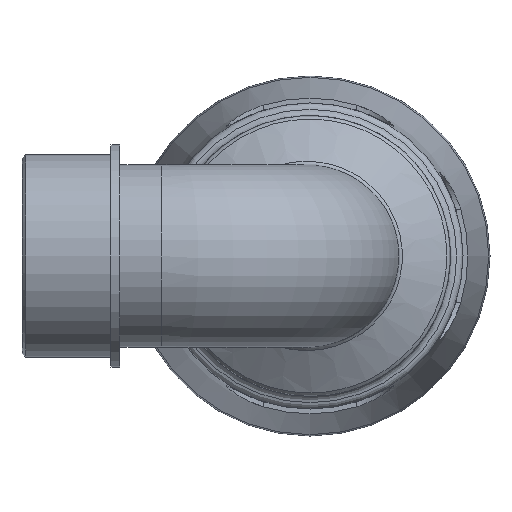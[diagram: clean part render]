
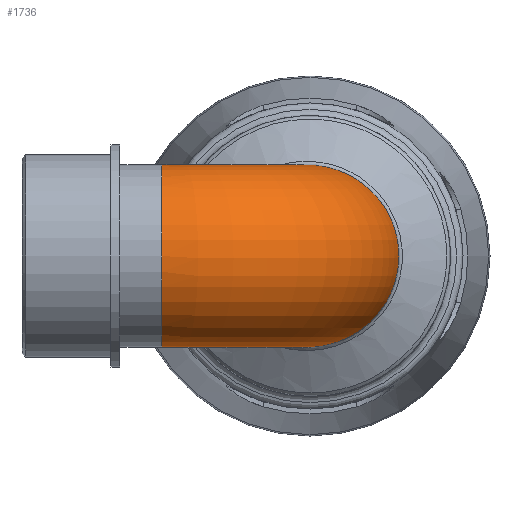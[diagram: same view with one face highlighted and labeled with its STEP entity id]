
A CAD part, left-side view. The second image highlights one B-rep face of the part: STEP entity #1736.
In plain terms, the highlighted toroidal (fillet/blend) face has major radius 34.998 mm and minor radius 21.511 mm.
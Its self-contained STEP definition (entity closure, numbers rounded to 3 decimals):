
#80=TOROIDAL_SURFACE('',#1855,34.998,21.511);
#90=FACE_BOUND('',#436,.T.);
#319=FACE_OUTER_BOUND('',#435,.T.);
#435=EDGE_LOOP('',(#1149));
#436=EDGE_LOOP('',(#1150));
#557=B_SPLINE_CURVE_WITH_KNOTS('',3,(#2632,#2633,#2634,#2635,#2636,#2637,
#2638,#2639,#2640,#2641,#2642,#2643,#2644,#2645,#2646,#2647,#2648,#2649,
#2650,#2651),.UNSPECIFIED.,.T.,.F.,(4,1,1,1,1,1,1,1,1,1,1,1,1,1,1,1,1,4),
(-3.142,-2.917,-2.693,-2.244,
-1.795,-1.346,-0.748,-0.449,
-0.299,-0.15,0.449,0.898,
1.346,1.795,2.244,2.693,2.917,
3.142),.UNSPECIFIED.);
#631=CIRCLE('',#1850,21.511);
#721=VERTEX_POINT('',#2630);
#728=VERTEX_POINT('',#2895);
#882=EDGE_CURVE('',#721,#721,#557,.T.);
#892=EDGE_CURVE('',#728,#728,#631,.T.);
#1149=ORIENTED_EDGE('',*,*,#882,.F.);
#1150=ORIENTED_EDGE('',*,*,#892,.T.);
#1736=ADVANCED_FACE('',(#319,#90),#80,.T.);
#1850=AXIS2_PLACEMENT_3D('',#2896,#2066,#2067);
#1855=AXIS2_PLACEMENT_3D('',#2904,#2076,#2077);
#2066=DIRECTION('center_axis',(0.,-1.,0.));
#2067=DIRECTION('ref_axis',(-1.,0.,0.));
#2076=DIRECTION('center_axis',(0.,0.,1.));
#2077=DIRECTION('ref_axis',(1.,0.,0.));
#2630=CARTESIAN_POINT('',(26.763,24.317,0.));
#2632=CARTESIAN_POINT('Ctrl Pts',(26.763,24.318,0.));
#2633=CARTESIAN_POINT('Ctrl Pts',(26.763,24.318,1.638));
#2634=CARTESIAN_POINT('Ctrl Pts',(26.761,23.837,4.915));
#2635=CARTESIAN_POINT('Ctrl Pts',(26.77,21.174,11.019));
#2636=CARTESIAN_POINT('Ctrl Pts',(26.86,15.467,17.301));
#2637=CARTESIAN_POINT('Ctrl Pts',(27.001,6.314,21.589));
#2638=CARTESIAN_POINT('Ctrl Pts',(27.115,-4.923,21.804));
#2639=CARTESIAN_POINT('Ctrl Pts',(27.174,-13.953,16.882));
#2640=CARTESIAN_POINT('Ctrl Pts',(27.197,-18.408,10.537));
#2641=CARTESIAN_POINT('Ctrl Pts',(27.206,-20.05,6.478));
#2642=CARTESIAN_POINT('Ctrl Pts',(27.213,-21.57,0.076));
#2643=CARTESIAN_POINT('Ctrl Pts',(27.207,-20.16,-8.966));
#2644=CARTESIAN_POINT('Ctrl Pts',(27.169,-12.989,-17.608));
#2645=CARTESIAN_POINT('Ctrl Pts',(27.104,-3.797,-21.773));
#2646=CARTESIAN_POINT('Ctrl Pts',(27.001,6.312,-21.594));
#2647=CARTESIAN_POINT('Ctrl Pts',(26.861,15.469,-17.299));
#2648=CARTESIAN_POINT('Ctrl Pts',(26.77,21.173,-11.02));
#2649=CARTESIAN_POINT('Ctrl Pts',(26.761,23.837,-4.915));
#2650=CARTESIAN_POINT('Ctrl Pts',(26.763,24.318,-1.638));
#2651=CARTESIAN_POINT('Ctrl Pts',(26.763,24.318,0.));
#2895=CARTESIAN_POINT('',(21.511,34.998,0.));
#2896=CARTESIAN_POINT('Origin',(0.,34.998,0.));
#2904=CARTESIAN_POINT('Origin',(34.998,34.998,0.));
